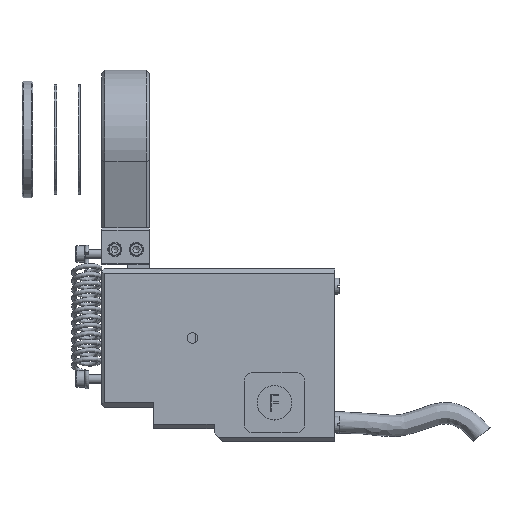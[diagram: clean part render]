
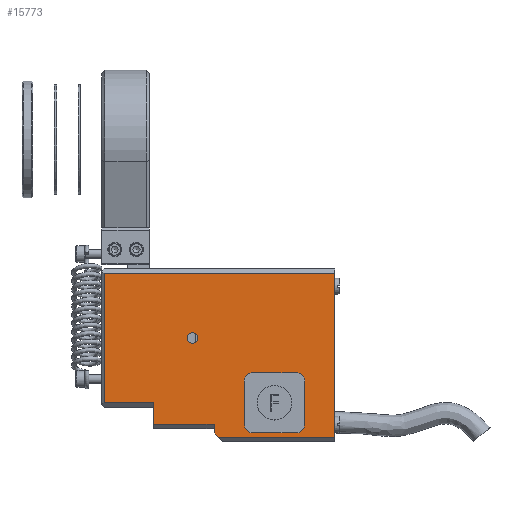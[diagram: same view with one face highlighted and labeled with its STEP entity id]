
A CAD part, left-side view. The second image highlights one B-rep face of the part: STEP entity #15773.
In plain terms, the highlighted planar face has unit normal (-1, 0, 0).
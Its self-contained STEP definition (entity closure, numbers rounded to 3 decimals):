
#1090=LINE($,#23009,#2369);
#1094=LINE($,#23018,#2373);
#1118=LINE($,#23084,#2397);
#1121=LINE($,#23089,#2400);
#1135=LINE($,#23140,#2414);
#1163=LINE($,#23329,#2442);
#1173=LINE($,#23362,#2452);
#1174=LINE($,#23366,#2453);
#1177=LINE($,#23386,#2456);
#1712=LINE($,#27388,#2991);
#1726=LINE($,#27415,#3005);
#1727=LINE($,#27418,#3006);
#1728=LINE($,#27419,#3007);
#2369=VECTOR($,#18063,10.);
#2373=VECTOR($,#18073,10.);
#2397=VECTOR($,#18133,30.);
#2400=VECTOR($,#18138,11.5);
#2414=VECTOR($,#18192,5.);
#2442=VECTOR($,#18322,14.);
#2452=VECTOR($,#18358,10.);
#2453=VECTOR($,#18365,10.);
#2456=VECTOR($,#18386,2.);
#2991=VECTOR($,#19237,1.414);
#3005=VECTOR($,#19263,27.);
#3006=VECTOR($,#19266,38.);
#3007=VECTOR($,#19267,53.5);
#3730=PLANE($,#16759);
#4080=FACE_BOUND($,#5722,.T.);
#4081=FACE_BOUND($,#5723,.T.);
#4082=FACE_BOUND($,#5724,.T.);
#5722=EDGE_LOOP($,(#12702));
#5723=EDGE_LOOP($,(#12703,#12704,#12705,#12706,#12707,#12708,#12709,#12710));
#5724=EDGE_LOOP($,(#12711,#12712,#12713,#12714,#12715,#12716,#12717,#12718,
#12719));
#6246=CIRCLE($,#16478,2.);
#6277=CIRCLE($,#16541,1.23);
#6297=CIRCLE($,#16579,2.);
#6298=CIRCLE($,#16581,2.);
#6299=CIRCLE($,#16584,2.);
#6729=VERTEX_POINT($,#23006);
#6730=VERTEX_POINT($,#23008);
#6731=VERTEX_POINT($,#23012);
#6732=VERTEX_POINT($,#23016);
#6755=VERTEX_POINT($,#23081);
#6756=VERTEX_POINT($,#23083);
#6757=VERTEX_POINT($,#23087);
#6774=VERTEX_POINT($,#23138);
#6797=VERTEX_POINT($,#23229);
#6822=VERTEX_POINT($,#23326);
#6830=VERTEX_POINT($,#23350);
#6831=VERTEX_POINT($,#23354);
#6832=VERTEX_POINT($,#23356);
#6833=VERTEX_POINT($,#23360);
#6841=VERTEX_POINT($,#23384);
#7395=VERTEX_POINT($,#27387);
#7402=VERTEX_POINT($,#27413);
#7403=VERTEX_POINT($,#27417);
#8291=EDGE_CURVE($,#6730,#6729,#1090,.T.);
#8294=EDGE_CURVE($,#6731,#6729,#6246,.T.);
#8296=EDGE_CURVE($,#6731,#6732,#1094,.T.);
#8328=EDGE_CURVE($,#6755,#6756,#1118,.T.);
#8331=EDGE_CURVE($,#6755,#6757,#1121,.T.);
#8354=EDGE_CURVE($,#6774,#6757,#1135,.T.);
#8386=EDGE_CURVE($,#6797,#6797,#6277,.T.);
#8413=EDGE_CURVE($,#6822,#6774,#1163,.T.);
#8424=EDGE_CURVE($,#6830,#6732,#6297,.T.);
#8426=EDGE_CURVE($,#6831,#6832,#6298,.T.);
#8429=EDGE_CURVE($,#6831,#6833,#1173,.T.);
#8430=EDGE_CURVE($,#6730,#6833,#6299,.T.);
#8431=EDGE_CURVE($,#6830,#6832,#1174,.T.);
#8440=EDGE_CURVE($,#6841,#6822,#1177,.T.);
#9269=EDGE_CURVE($,#7395,#6841,#1712,.T.);
#9283=EDGE_CURVE($,#7395,#7402,#1726,.T.);
#9284=EDGE_CURVE($,#7403,#7402,#1727,.T.);
#9285=EDGE_CURVE($,#6756,#7403,#1728,.T.);
#12702=ORIENTED_EDGE($,*,*,#8386,.T.);
#12703=ORIENTED_EDGE($,*,*,#8429,.T.);
#12704=ORIENTED_EDGE($,*,*,#8430,.F.);
#12705=ORIENTED_EDGE($,*,*,#8291,.T.);
#12706=ORIENTED_EDGE($,*,*,#8294,.F.);
#12707=ORIENTED_EDGE($,*,*,#8296,.T.);
#12708=ORIENTED_EDGE($,*,*,#8424,.F.);
#12709=ORIENTED_EDGE($,*,*,#8431,.T.);
#12710=ORIENTED_EDGE($,*,*,#8426,.F.);
#12711=ORIENTED_EDGE($,*,*,#9269,.F.);
#12712=ORIENTED_EDGE($,*,*,#9283,.T.);
#12713=ORIENTED_EDGE($,*,*,#9284,.F.);
#12714=ORIENTED_EDGE($,*,*,#9285,.F.);
#12715=ORIENTED_EDGE($,*,*,#8328,.F.);
#12716=ORIENTED_EDGE($,*,*,#8331,.T.);
#12717=ORIENTED_EDGE($,*,*,#8354,.F.);
#12718=ORIENTED_EDGE($,*,*,#8413,.F.);
#12719=ORIENTED_EDGE($,*,*,#8440,.F.);
#15773=ADVANCED_FACE($,(#4080,#4081,#4082),#3730,.T.);
#16478=AXIS2_PLACEMENT_3D($,#23014,#18068,#18069);
#16541=AXIS2_PLACEMENT_3D($,#23230,#18254,#18255);
#16579=AXIS2_PLACEMENT_3D($,#23352,#18347,#18348);
#16581=AXIS2_PLACEMENT_3D($,#23357,#18352,#18353);
#16584=AXIS2_PLACEMENT_3D($,#23364,#18361,#18362);
#16759=AXIS2_PLACEMENT_3D($,#27416,#19264,#19265);
#18063=DIRECTION($,(0.,-1.,0.));
#18068=DIRECTION('center_axis',(-1.,0.,0.));
#18069=DIRECTION('ref_axis',(0.,-0.707,
0.707));
#18073=DIRECTION($,(0.,0.,-1.));
#18133=DIRECTION($,(0.,0.,1.));
#18138=DIRECTION($,(0.,-1.,0.));
#18192=DIRECTION($,(0.,0.,1.));
#18254=DIRECTION('center_axis',(1.,0.,0.));
#18255=DIRECTION('ref_axis',(0.,-1.,0.));
#18322=DIRECTION($,(0.,1.,0.));
#18347=DIRECTION('center_axis',(-1.,0.,0.));
#18348=DIRECTION('ref_axis',(0.,-0.707,-0.707));
#18352=DIRECTION('center_axis',(-1.,0.,0.));
#18353=DIRECTION('ref_axis',(0.,0.707,-0.707));
#18358=DIRECTION($,(0.,0.,1.));
#18361=DIRECTION('center_axis',(-1.,0.,0.));
#18362=DIRECTION('ref_axis',(0.,0.707,0.707));
#18365=DIRECTION($,(0.,1.,0.));
#18386=DIRECTION($,(0.,0.,1.));
#19237=DIRECTION($,(0.,0.707,0.707));
#19263=DIRECTION($,(0.,-1.,0.));
#19264=DIRECTION('center_axis',(-1.,0.,0.));
#19265=DIRECTION('ref_axis',(0.,0.,
-1.));
#19266=DIRECTION($,(0.,0.,-1.));
#19267=DIRECTION($,(0.,-1.,0.));
#23006=CARTESIAN_POINT('',(-15.942,-19.,-4.1));
#23008=CARTESIAN_POINT('',(-15.942,-9.,-4.1));
#23009=CARTESIAN_POINT($,(-15.942,-3.5,-4.1));
#23012=CARTESIAN_POINT('',(-15.942,-21.,-6.1));
#23014=CARTESIAN_POINT('Origin',(-15.942,-19.,-6.1));
#23016=CARTESIAN_POINT('',(-15.942,-21.,-16.1));
#23018=CARTESIAN_POINT($,(-15.942,-21.,7.4));
#23081=CARTESIAN_POINT('',(-15.942,25.5,-11.1));
#23083=CARTESIAN_POINT('',(-15.942,25.5,18.9));
#23084=CARTESIAN_POINT($,(-15.942,25.5,10.593));
#23087=CARTESIAN_POINT('',(-15.942,14.,-11.1));
#23089=CARTESIAN_POINT($,(-15.942,26.,-11.1));
#23138=CARTESIAN_POINT('',(-15.942,14.,-16.1));
#23140=CARTESIAN_POINT($,(-15.942,14.,-16.1));
#23229=CARTESIAN_POINT('',(-15.942,3.771,3.9));
#23230=CARTESIAN_POINT('Origin',(-15.942,5.,3.9));
#23326=CARTESIAN_POINT('',(-15.942,0.,-16.1));
#23329=CARTESIAN_POINT($,(-15.942,0.,-16.1));
#23350=CARTESIAN_POINT('',(-15.942,-19.,-18.1));
#23352=CARTESIAN_POINT('Origin',(-15.942,-19.,-16.1));
#23354=CARTESIAN_POINT('',(-15.942,-7.,-16.1));
#23356=CARTESIAN_POINT('',(-15.942,-9.,-18.1));
#23357=CARTESIAN_POINT('Origin',(-15.942,-9.,-16.1));
#23360=CARTESIAN_POINT('',(-15.942,-7.,-6.1));
#23362=CARTESIAN_POINT($,(-15.942,-7.,0.4));
#23364=CARTESIAN_POINT('Origin',(-15.942,-9.,-6.1));
#23366=CARTESIAN_POINT($,(-15.942,-10.5,-18.1));
#23384=CARTESIAN_POINT('',(-15.942,0.,-18.1));
#23386=CARTESIAN_POINT($,(-15.942,0.,-19.1));
#27387=CARTESIAN_POINT('',(-15.942,-1.,-19.1));
#27388=CARTESIAN_POINT($,(-15.942,8.75,-9.35));
#27413=CARTESIAN_POINT('',(-15.942,-28.,-19.1));
#27415=CARTESIAN_POINT($,(-15.942,0.,-19.1));
#27416=CARTESIAN_POINT('Origin',(-15.942,0.,
18.9));
#27417=CARTESIAN_POINT('',(-15.942,-28.,18.9));
#27418=CARTESIAN_POINT($,(-15.942,-28.,-19.1));
#27419=CARTESIAN_POINT($,(-15.942,0.,18.9));
